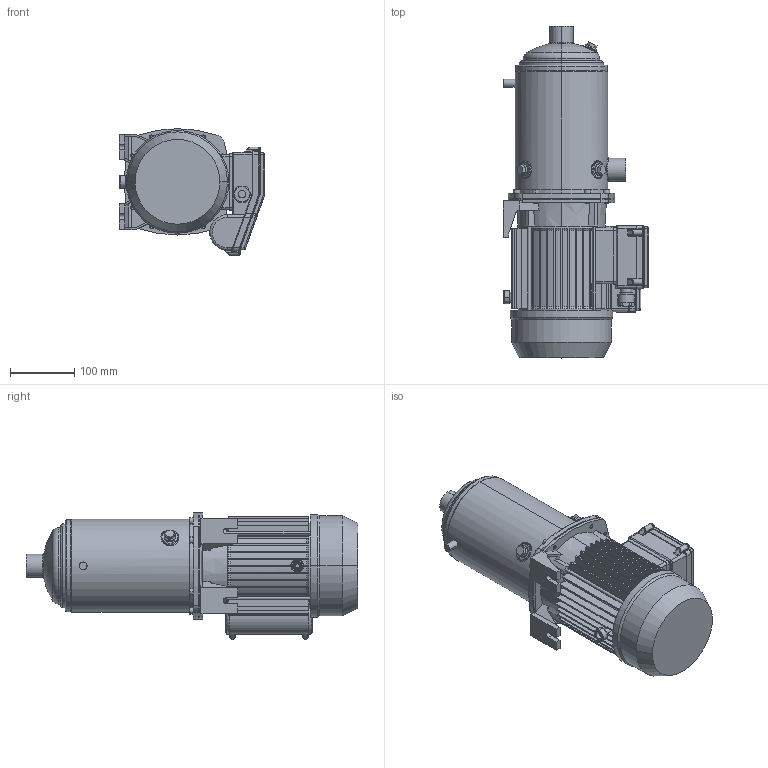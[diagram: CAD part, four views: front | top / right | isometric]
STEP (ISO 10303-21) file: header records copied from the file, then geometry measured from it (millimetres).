
FILE_DESCRIPTION((''),'2;1');
FILE_NAME('MATRIX_3-8T_1_3_M_ASM','2017-04-07T',('rosa'),('"Ebara Pumps Europe +39.444.706811"'),'PRO/ENGINEER BY PARAMETRIC TECHNOLOGY CORPORATION, 2012130','PRO/ENGINEER BY PARAMETRIC TECHNOLOGY CORPORATION, 2012130','');
FILE_SCHEMA(('AUTOMOTIVE_DESIGN { 1 0 10303 214 1 1 1 1 }'));
Length unit declared in the file: millimetre
Products named in the file (6): CORPO_POMPA_MATRIX_3-8; SUPPORTO_MATRIX_MEC_80; MEC_80_MONOFASE; 72229; COPRIMORSETTIERA_MEC80_90_M; MATRIX_3-8T_1_3_M_ASM
Assembly tree (5 placements, depth 2):
  MATRIX_3-8T_1_3_M_ASM
    CORPO_POMPA_MATRIX_3-8
    SUPPORTO_MATRIX_MEC_80
    MEC_80_MONOFASE
    72229
    COPRIMORSETTIERA_MEC80_90_M
Bounding box: 225 x 514.8 x 196.5 mm (x, y, z)
Volume: 7150529.8 mm3; surface area: 622972 mm2
Topology: 5 solids, 5 shells, 963 faces, 2300 edges, 1395 vertices
Faces by surface type: plane 428, cylinder 305, cone 108, torus 62, bspline 56, sphere 4
Entity records: 39269 total; most frequent: CARTESIAN_POINT 9402, DIRECTION 4724, ORIENTED_EDGE 4600, EDGE_CURVE 2300, PRESENTATION_STYLE_ASSIGNMENT 2254, STYLED_ITEM 2254, CURVE_STYLE 2250, AXIS2_PLACEMENT_3D 1820
